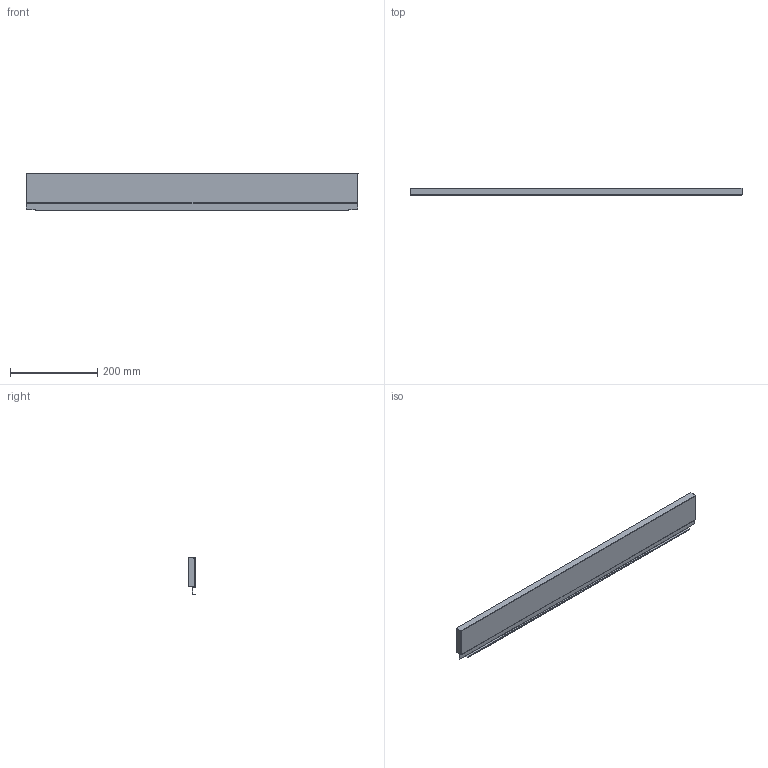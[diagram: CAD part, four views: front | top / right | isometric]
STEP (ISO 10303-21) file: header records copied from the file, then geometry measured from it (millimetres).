
FILE_DESCRIPTION (( 'STEP AP214' ), '1' );
FILE_NAME ('_STRW_H90_KAB_850.step', '2010-08-24T14:40:18', ( 'grass' ), ( '' ), 'SwSTEP 2.0', 'SolidWorks 2009', '' );
FILE_SCHEMA (( 'AUTOMOTIVE_DESIGN' ));
Length unit declared in the file: millimetre
Products named in the file (1): _STRW_H90_KAB_850
Bounding box: 760 x 17 x 85.14 mm (x, y, z)
Volume: 69876.6 mm3; surface area: 176165.3 mm2
Topology: 1 solids, 1 shells, 76 faces, 214 edges, 140 vertices
Faces by surface type: plane 54, cylinder 22
Entity records: 2472 total; most frequent: CARTESIAN_POINT 431, ORIENTED_EDGE 428, DIRECTION 412, EDGE_CURVE 214, LINE 170, VECTOR 170, VERTEX_POINT 140, AXIS2_PLACEMENT_3D 121
